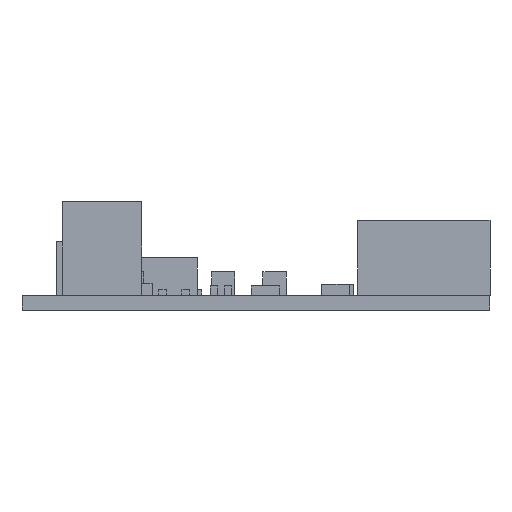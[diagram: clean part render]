
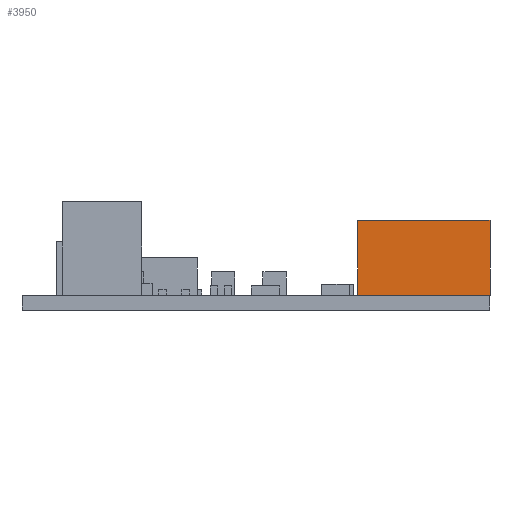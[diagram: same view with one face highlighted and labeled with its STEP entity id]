
A CAD part, left-side view. The second image highlights one B-rep face of the part: STEP entity #3950.
In plain terms, the highlighted planar face has unit normal (-1, 0, 0).
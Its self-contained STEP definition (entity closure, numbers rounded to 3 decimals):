
#3950 = ADVANCED_FACE('',(#3951),#3965,.F.);
#3951 = FACE_BOUND('',#3952,.F.);
#3952 = EDGE_LOOP('',(#3953,#3988,#4016,#4044));
#3953 = ORIENTED_EDGE('',*,*,#3954,.F.);
#3954 = EDGE_CURVE('',#3955,#3957,#3959,.T.);
#3955 = VERTEX_POINT('',#3956);
#3956 = CARTESIAN_POINT('',(8.25,-0.01,1.6));
#3957 = VERTEX_POINT('',#3958);
#3958 = CARTESIAN_POINT('',(8.25,-0.01,9.6));
#3959 = SURFACE_CURVE('',#3960,(#3964,#3976),.PCURVE_S1.);
#3960 = LINE('',#3961,#3962);
#3961 = CARTESIAN_POINT('',(8.25,-0.01,1.6));
#3962 = VECTOR('',#3963,1.);
#3963 = DIRECTION('',(0.,0.,1.));
#3964 = PCURVE('',#3965,#3970);
#3965 = PLANE('',#3966);
#3966 = AXIS2_PLACEMENT_3D('',#3967,#3968,#3969);
#3967 = CARTESIAN_POINT('',(8.25,-0.01,1.6));
#3968 = DIRECTION('',(1.,0.,0.));
#3969 = DIRECTION('',(0.,0.,1.));
#3970 = DEFINITIONAL_REPRESENTATION('',(#3971),#3975);
#3971 = LINE('',#3972,#3973);
#3972 = CARTESIAN_POINT('',(0.,0.));
#3973 = VECTOR('',#3974,1.);
#3974 = DIRECTION('',(1.,0.));
#3975 = ( GEOMETRIC_REPRESENTATION_CONTEXT(2) 
PARAMETRIC_REPRESENTATION_CONTEXT() REPRESENTATION_CONTEXT('2D SPACE',''
  ) );
#3976 = PCURVE('',#3977,#3982);
#3977 = PLANE('',#3978);
#3978 = AXIS2_PLACEMENT_3D('',#3979,#3980,#3981);
#3979 = CARTESIAN_POINT('',(8.25,-0.01,1.6));
#3980 = DIRECTION('',(0.,1.,0.));
#3981 = DIRECTION('',(0.,0.,1.));
#3982 = DEFINITIONAL_REPRESENTATION('',(#3983),#3987);
#3983 = LINE('',#3984,#3985);
#3984 = CARTESIAN_POINT('',(0.,0.));
#3985 = VECTOR('',#3986,1.);
#3986 = DIRECTION('',(1.,0.));
#3987 = ( GEOMETRIC_REPRESENTATION_CONTEXT(2) 
PARAMETRIC_REPRESENTATION_CONTEXT() REPRESENTATION_CONTEXT('2D SPACE',''
  ) );
#3988 = ORIENTED_EDGE('',*,*,#3989,.T.);
#3989 = EDGE_CURVE('',#3955,#3990,#3992,.T.);
#3990 = VERTEX_POINT('',#3991);
#3991 = CARTESIAN_POINT('',(8.25,14.14,1.6));
#3992 = SURFACE_CURVE('',#3993,(#3997,#4004),.PCURVE_S1.);
#3993 = LINE('',#3994,#3995);
#3994 = CARTESIAN_POINT('',(8.25,-0.01,1.6));
#3995 = VECTOR('',#3996,1.);
#3996 = DIRECTION('',(0.,1.,0.));
#3997 = PCURVE('',#3965,#3998);
#3998 = DEFINITIONAL_REPRESENTATION('',(#3999),#4003);
#3999 = LINE('',#4000,#4001);
#4000 = CARTESIAN_POINT('',(0.,0.));
#4001 = VECTOR('',#4002,1.);
#4002 = DIRECTION('',(0.,-1.));
#4003 = ( GEOMETRIC_REPRESENTATION_CONTEXT(2) 
PARAMETRIC_REPRESENTATION_CONTEXT() REPRESENTATION_CONTEXT('2D SPACE',''
  ) );
#4004 = PCURVE('',#4005,#4010);
#4005 = PLANE('',#4006);
#4006 = AXIS2_PLACEMENT_3D('',#4007,#4008,#4009);
#4007 = CARTESIAN_POINT('',(8.25,-0.01,1.6));
#4008 = DIRECTION('',(0.,0.,1.));
#4009 = DIRECTION('',(1.,0.,0.));
#4010 = DEFINITIONAL_REPRESENTATION('',(#4011),#4015);
#4011 = LINE('',#4012,#4013);
#4012 = CARTESIAN_POINT('',(0.,0.));
#4013 = VECTOR('',#4014,1.);
#4014 = DIRECTION('',(0.,1.));
#4015 = ( GEOMETRIC_REPRESENTATION_CONTEXT(2) 
PARAMETRIC_REPRESENTATION_CONTEXT() REPRESENTATION_CONTEXT('2D SPACE',''
  ) );
#4016 = ORIENTED_EDGE('',*,*,#4017,.T.);
#4017 = EDGE_CURVE('',#3990,#4018,#4020,.T.);
#4018 = VERTEX_POINT('',#4019);
#4019 = CARTESIAN_POINT('',(8.25,14.14,9.6));
#4020 = SURFACE_CURVE('',#4021,(#4025,#4032),.PCURVE_S1.);
#4021 = LINE('',#4022,#4023);
#4022 = CARTESIAN_POINT('',(8.25,14.14,1.6));
#4023 = VECTOR('',#4024,1.);
#4024 = DIRECTION('',(0.,0.,1.));
#4025 = PCURVE('',#3965,#4026);
#4026 = DEFINITIONAL_REPRESENTATION('',(#4027),#4031);
#4027 = LINE('',#4028,#4029);
#4028 = CARTESIAN_POINT('',(0.,-14.15));
#4029 = VECTOR('',#4030,1.);
#4030 = DIRECTION('',(1.,0.));
#4031 = ( GEOMETRIC_REPRESENTATION_CONTEXT(2) 
PARAMETRIC_REPRESENTATION_CONTEXT() REPRESENTATION_CONTEXT('2D SPACE',''
  ) );
#4032 = PCURVE('',#4033,#4038);
#4033 = PLANE('',#4034);
#4034 = AXIS2_PLACEMENT_3D('',#4035,#4036,#4037);
#4035 = CARTESIAN_POINT('',(8.25,14.14,1.6));
#4036 = DIRECTION('',(0.,1.,0.));
#4037 = DIRECTION('',(0.,0.,1.));
#4038 = DEFINITIONAL_REPRESENTATION('',(#4039),#4043);
#4039 = LINE('',#4040,#4041);
#4040 = CARTESIAN_POINT('',(0.,0.));
#4041 = VECTOR('',#4042,1.);
#4042 = DIRECTION('',(1.,0.));
#4043 = ( GEOMETRIC_REPRESENTATION_CONTEXT(2) 
PARAMETRIC_REPRESENTATION_CONTEXT() REPRESENTATION_CONTEXT('2D SPACE',''
  ) );
#4044 = ORIENTED_EDGE('',*,*,#4045,.F.);
#4045 = EDGE_CURVE('',#3957,#4018,#4046,.T.);
#4046 = SURFACE_CURVE('',#4047,(#4051,#4058),.PCURVE_S1.);
#4047 = LINE('',#4048,#4049);
#4048 = CARTESIAN_POINT('',(8.25,-0.01,9.6));
#4049 = VECTOR('',#4050,1.);
#4050 = DIRECTION('',(0.,1.,0.));
#4051 = PCURVE('',#3965,#4052);
#4052 = DEFINITIONAL_REPRESENTATION('',(#4053),#4057);
#4053 = LINE('',#4054,#4055);
#4054 = CARTESIAN_POINT('',(8.,0.));
#4055 = VECTOR('',#4056,1.);
#4056 = DIRECTION('',(0.,-1.));
#4057 = ( GEOMETRIC_REPRESENTATION_CONTEXT(2) 
PARAMETRIC_REPRESENTATION_CONTEXT() REPRESENTATION_CONTEXT('2D SPACE',''
  ) );
#4058 = PCURVE('',#4059,#4064);
#4059 = PLANE('',#4060);
#4060 = AXIS2_PLACEMENT_3D('',#4061,#4062,#4063);
#4061 = CARTESIAN_POINT('',(8.25,-0.01,9.6));
#4062 = DIRECTION('',(0.,0.,1.));
#4063 = DIRECTION('',(1.,0.,0.));
#4064 = DEFINITIONAL_REPRESENTATION('',(#4065),#4069);
#4065 = LINE('',#4066,#4067);
#4066 = CARTESIAN_POINT('',(0.,0.));
#4067 = VECTOR('',#4068,1.);
#4068 = DIRECTION('',(0.,1.));
#4069 = ( GEOMETRIC_REPRESENTATION_CONTEXT(2) 
PARAMETRIC_REPRESENTATION_CONTEXT() REPRESENTATION_CONTEXT('2D SPACE',''
  ) );
